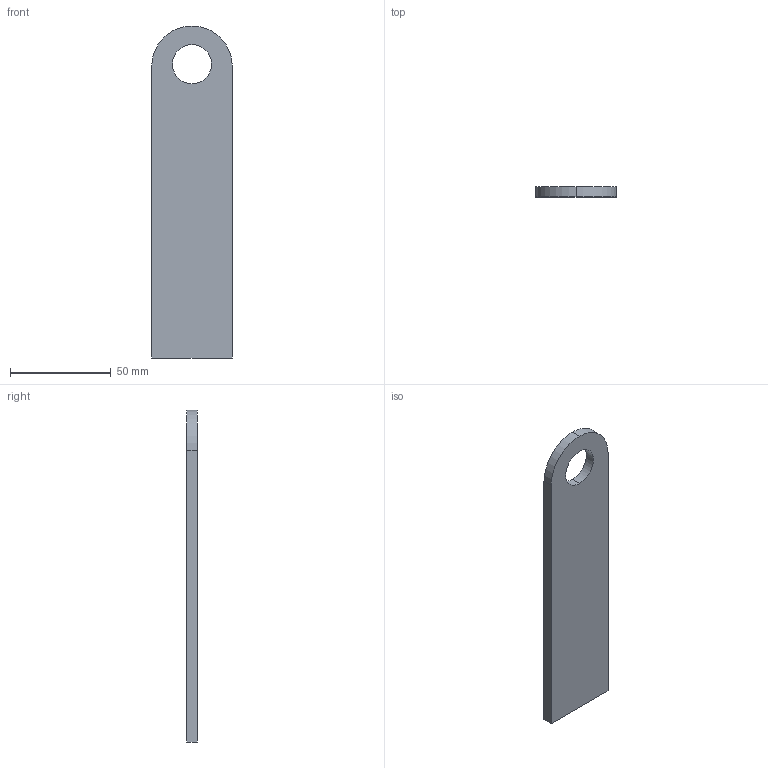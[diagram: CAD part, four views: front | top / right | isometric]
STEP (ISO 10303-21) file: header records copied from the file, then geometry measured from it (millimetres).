
FILE_DESCRIPTION (( 'STEP AP203' ), '1' );
FILE_NAME ('STAFFA_165_RIBALTINI.STEP', '2019-02-20T19:18:11', ( '' ), ( '' ), 'SwSTEP 2.0', 'SolidWorks 2019', '' );
FILE_SCHEMA (( 'CONFIG_CONTROL_DESIGN' ));
Length unit declared in the file: millimetre
Products named in the file (1): STAFFA_165_RIBALTINI
Bounding box: 40 x 5 x 165 mm (x, y, z)
Volume: 30648.4 mm3; surface area: 14529.8 mm2
Topology: 1 solids, 1 shells, 9 faces, 21 edges, 14 vertices
Faces by surface type: plane 5, cylinder 4
Entity records: 344 total; most frequent: DIRECTION 49, CARTESIAN_POINT 45, ORIENTED_EDGE 42, EDGE_CURVE 21, AXIS2_PLACEMENT_3D 18, VERTEX_POINT 14, VECTOR 13, LINE 13
